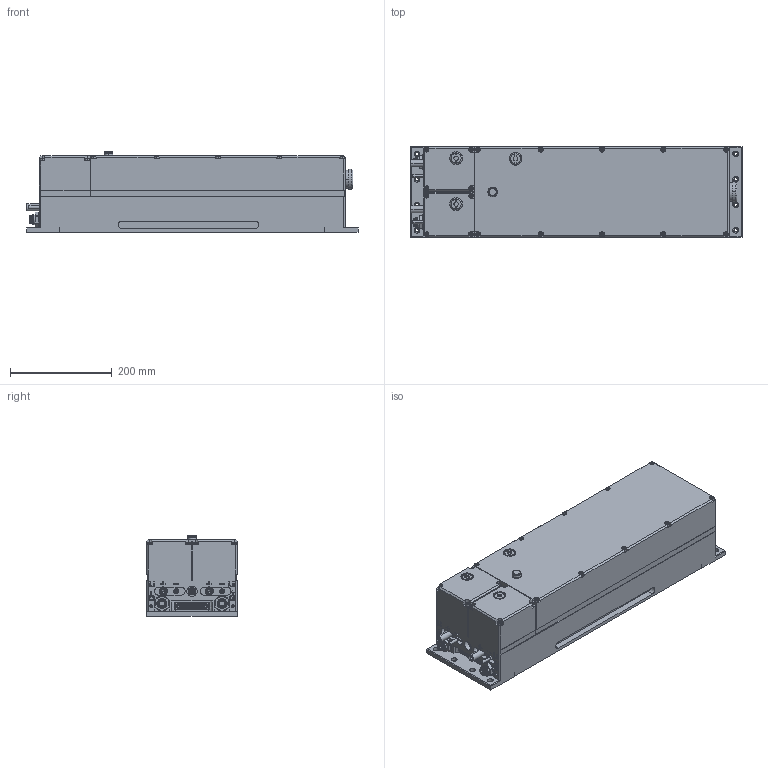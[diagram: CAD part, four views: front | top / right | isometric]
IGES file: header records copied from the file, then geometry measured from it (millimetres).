
Global section: file name: No Iges File Name specified; native system: Autodesk Inventor 2010; preprocessor: AutoDesk Inventor Iges Exporter R2010; author: User; date: 20110607.120240; units: millimetre
Bounding box: 651 x 178 x 158 mm (x, y, z)
Volume: 15843191.6 mm3; surface area: 650186.7 mm2
Topology: 40 solids, 40 shells, 1597 faces, 3876 edges, 2483 vertices
Faces by surface type: plane 652, revolution 284, cylinder 272, bspline 241, cone 76, torus 72
